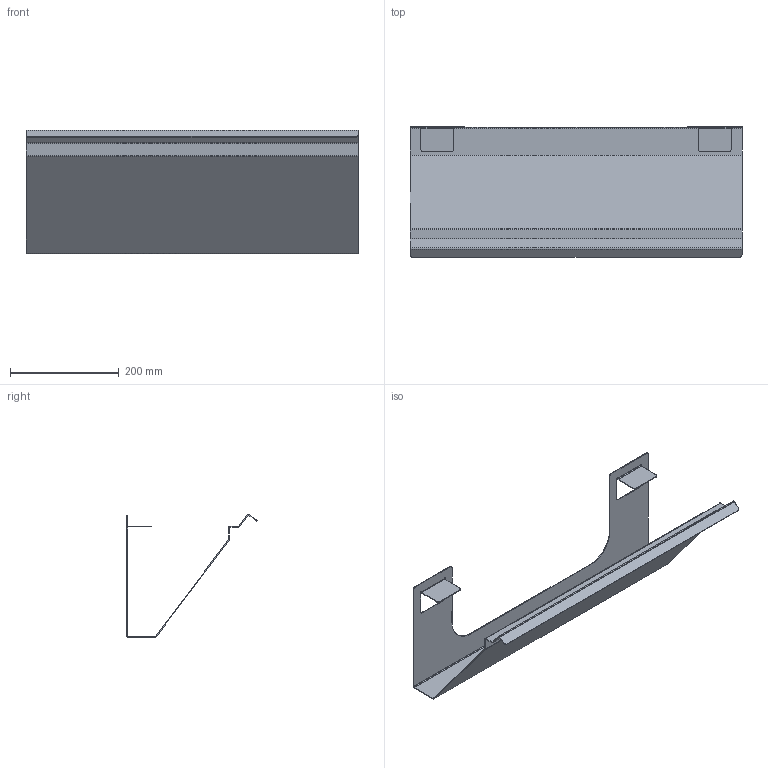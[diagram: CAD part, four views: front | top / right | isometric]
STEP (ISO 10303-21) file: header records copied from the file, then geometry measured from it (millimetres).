
FILE_DESCRIPTION (( 'STEP AP203' ), '1' );
FILE_NAME ('NIK105.STEP', '2022-01-18T11:01:27', ( '' ), ( '' ), 'SwSTEP 2.0', 'SolidWorks 2019', '' );
FILE_SCHEMA (( 'CONFIG_CONTROL_DESIGN' ));
Length unit declared in the file: millimetre
Products named in the file (1): NIK105
Bounding box: 610 x 239.33 x 226.65 mm (x, y, z)
Volume: 429689.4 mm3; surface area: 577910.1 mm2
Topology: 1 solids, 1 shells, 106 faces, 248 edges, 144 vertices
Faces by surface type: plane 74, cylinder 32
Entity records: 3029 total; most frequent: DIRECTION 526, CARTESIAN_POINT 499, ORIENTED_EDGE 496, EDGE_CURVE 248, VECTOR 184, LINE 184, AXIS2_PLACEMENT_3D 171, VERTEX_POINT 144
